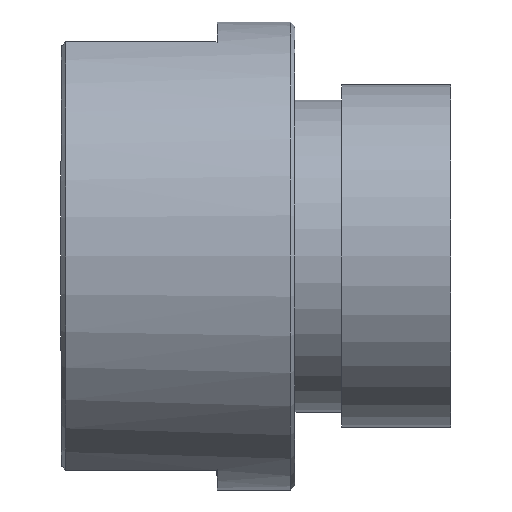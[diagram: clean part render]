
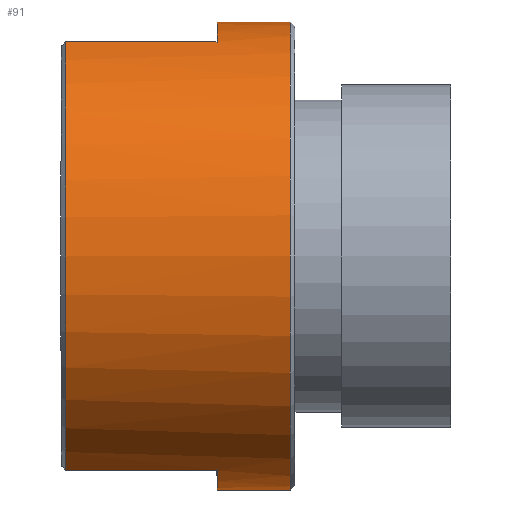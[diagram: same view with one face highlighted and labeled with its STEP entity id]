
A CAD part, left-side view. The second image highlights one B-rep face of the part: STEP entity #91.
In plain terms, the highlighted cylindrical face has radius 15 mm (diameter 30 mm), a partial arc.
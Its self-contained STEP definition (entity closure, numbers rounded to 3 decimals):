
#30 = DIRECTION ( 'NONE',  ( 0., 1., 0. ) ) ;
#46 = CARTESIAN_POINT ( 'NONE',  ( 0., 5., 0. ) ) ;
#50 = CARTESIAN_POINT ( 'NONE',  ( -6., 14.7, 13.748 ) ) ;
#52 = EDGE_CURVE ( 'NONE', #390, #790, #455, .T. ) ;
#62 = DIRECTION ( 'NONE',  ( 0., -1., 0. ) ) ;
#70 = EDGE_LOOP ( 'NONE', ( #169, #903, #786, #769, #628, #823, #710, #525 ) ) ;
#88 = CARTESIAN_POINT ( 'NONE',  ( -6., 14.7, -13.748 ) ) ;
#91 = ADVANCED_FACE ( 'NONE', ( #908 ), #729, .T. ) ;
#94 = VERTEX_POINT ( 'NONE', #284 ) ;
#110 = EDGE_CURVE ( 'NONE', #261, #874, #891, .T. ) ;
#135 = AXIS2_PLACEMENT_3D ( 'NONE', #181, #260, #318 ) ;
#139 = EDGE_CURVE ( 'NONE', #94, #520, #404, .T. ) ;
#169 = ORIENTED_EDGE ( 'NONE', *, *, #139, .F. ) ;
#181 = CARTESIAN_POINT ( 'NONE',  ( 0., 5., 0. ) ) ;
#218 = CIRCLE ( 'NONE', #408, 15. ) ;
#260 = DIRECTION ( 'NONE',  ( 0., 1., 0. ) ) ;
#261 = VERTEX_POINT ( 'NONE', #851 ) ;
#284 = CARTESIAN_POINT ( 'NONE',  ( 0., 5., 15. ) ) ;
#313 = VECTOR ( 'NONE', #605, 1000. ) ;
#318 = DIRECTION ( 'NONE',  ( -1., 0., 0. ) ) ;
#321 = AXIS2_PLACEMENT_3D ( 'NONE', #323, #497, #880 ) ;
#323 = CARTESIAN_POINT ( 'NONE',  ( 0., 14.7, 0. ) ) ;
#325 = CARTESIAN_POINT ( 'NONE',  ( 0., 0.3, -15. ) ) ;
#335 = CARTESIAN_POINT ( 'NONE',  ( -6., 5., 13.748 ) ) ;
#345 = DIRECTION ( 'NONE',  ( 0., 0., -1. ) ) ;
#365 = CARTESIAN_POINT ( 'NONE',  ( 0., 15., 15. ) ) ;
#390 = VERTEX_POINT ( 'NONE', #936 ) ;
#400 = CARTESIAN_POINT ( 'NONE',  ( 0., 0.3, 15. ) ) ;
#404 = LINE ( 'NONE', #365, #313 ) ;
#408 = AXIS2_PLACEMENT_3D ( 'NONE', #957, #723, #949 ) ;
#414 = AXIS2_PLACEMENT_3D ( 'NONE', #46, #900, #345 ) ;
#448 = DIRECTION ( 'NONE',  ( 0., 0., -1. ) ) ;
#455 = LINE ( 'NONE', #517, #540 ) ;
#492 = AXIS2_PLACEMENT_3D ( 'NONE', #682, #62, #448 ) ;
#497 = DIRECTION ( 'NONE',  ( 0., -1., 0. ) ) ;
#517 = CARTESIAN_POINT ( 'NONE',  ( -6., 15., -13.748 ) ) ;
#520 = VERTEX_POINT ( 'NONE', #400 ) ;
#525 = ORIENTED_EDGE ( 'NONE', *, *, #796, .T. ) ;
#539 = CIRCLE ( 'NONE', #321, 15. ) ;
#540 = VECTOR ( 'NONE', #598, 1000. ) ;
#558 = VECTOR ( 'NONE', #30, 1000. ) ;
#561 = CARTESIAN_POINT ( 'NONE',  ( -6., 15., 13.748 ) ) ;
#570 = LINE ( 'NONE', #561, #558 ) ;
#598 = DIRECTION ( 'NONE',  ( 0., 1., 0. ) ) ;
#605 = DIRECTION ( 'NONE',  ( 0., -1., 0. ) ) ;
#628 = ORIENTED_EDGE ( 'NONE', *, *, #52, .F. ) ;
#643 = EDGE_CURVE ( 'NONE', #261, #390, #825, .T. ) ;
#650 = EDGE_CURVE ( 'NONE', #912, #790, #539, .T. ) ;
#682 = CARTESIAN_POINT ( 'NONE',  ( 0., 15., 0. ) ) ;
#688 = CARTESIAN_POINT ( 'NONE',  ( 0., 15., -15. ) ) ;
#710 = ORIENTED_EDGE ( 'NONE', *, *, #110, .T. ) ;
#712 = VECTOR ( 'NONE', #1000, 1000. ) ;
#722 = CIRCLE ( 'NONE', #414, 15. ) ;
#723 = DIRECTION ( 'NONE',  ( 0., 1., 0. ) ) ;
#729 = CYLINDRICAL_SURFACE ( 'NONE', #492, 15. ) ;
#768 = VERTEX_POINT ( 'NONE', #335 ) ;
#769 = ORIENTED_EDGE ( 'NONE', *, *, #650, .T. ) ;
#786 = ORIENTED_EDGE ( 'NONE', *, *, #832, .T. ) ;
#790 = VERTEX_POINT ( 'NONE', #88 ) ;
#796 = EDGE_CURVE ( 'NONE', #874, #520, #218, .T. ) ;
#823 = ORIENTED_EDGE ( 'NONE', *, *, #643, .F. ) ;
#825 = CIRCLE ( 'NONE', #135, 15. ) ;
#832 = EDGE_CURVE ( 'NONE', #768, #912, #570, .T. ) ;
#851 = CARTESIAN_POINT ( 'NONE',  ( 0., 5., -15. ) ) ;
#874 = VERTEX_POINT ( 'NONE', #325 ) ;
#880 = DIRECTION ( 'NONE',  ( 0., 0., 1. ) ) ;
#891 = LINE ( 'NONE', #688, #712 ) ;
#900 = DIRECTION ( 'NONE',  ( 0., -1., 0. ) ) ;
#903 = ORIENTED_EDGE ( 'NONE', *, *, #924, .T. ) ;
#908 = FACE_OUTER_BOUND ( 'NONE', #70, .T. ) ;
#912 = VERTEX_POINT ( 'NONE', #50 ) ;
#924 = EDGE_CURVE ( 'NONE', #94, #768, #722, .T. ) ;
#936 = CARTESIAN_POINT ( 'NONE',  ( -6., 5., -13.748 ) ) ;
#949 = DIRECTION ( 'NONE',  ( 0., 0., 1. ) ) ;
#957 = CARTESIAN_POINT ( 'NONE',  ( 0., 0.3, 0. ) ) ;
#1000 = DIRECTION ( 'NONE',  ( 0., -1., 0. ) ) ;
